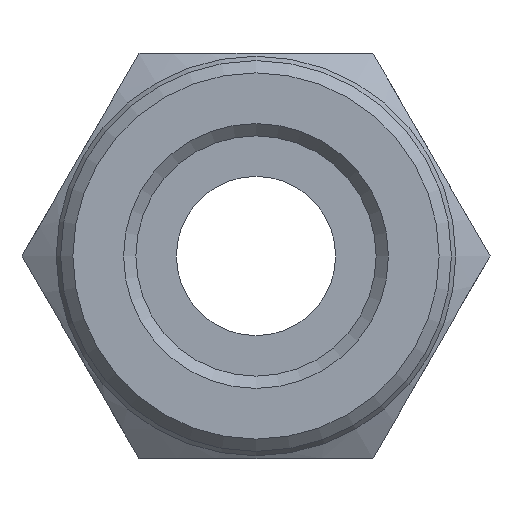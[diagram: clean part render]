
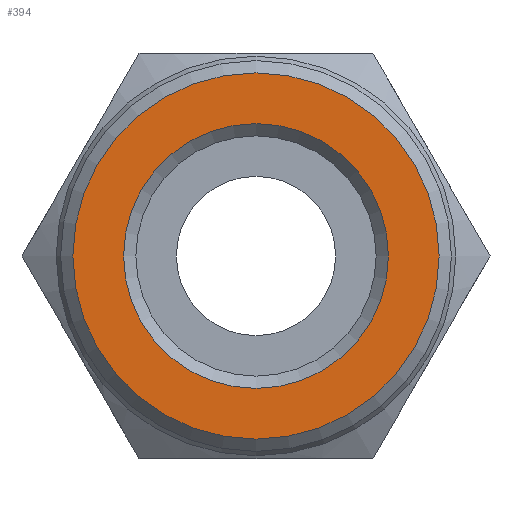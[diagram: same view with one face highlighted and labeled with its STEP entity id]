
A CAD part, left-side view. The second image highlights one B-rep face of the part: STEP entity #394.
In plain terms, the highlighted planar face has unit normal (-1, 0, 0).
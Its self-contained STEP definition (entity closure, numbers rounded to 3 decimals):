
#55=PLANE('',#442);
#70=ORIENTED_EDGE('',*,*,#158,.T.);
#71=ORIENTED_EDGE('',*,*,#156,.F.);
#156=EDGE_CURVE('',#200,#200,#238,.T.);
#158=EDGE_CURVE('',#202,#202,#240,.T.);
#200=VERTEX_POINT('',#627);
#202=VERTEX_POINT('',#632);
#238=CIRCLE('',#440,6.326);
#240=CIRCLE('',#443,4.574);
#266=EDGE_LOOP('',(#70));
#267=EDGE_LOOP('',(#71));
#326=FACE_BOUND('',#266,.T.);
#327=FACE_BOUND('',#267,.T.);
#394=ADVANCED_FACE('',(#326,#327),#55,.T.);
#440=AXIS2_PLACEMENT_3D('',#626,#502,#503);
#442=AXIS2_PLACEMENT_3D('',#630,#506,#507);
#443=AXIS2_PLACEMENT_3D('',#631,#508,#509);
#502=DIRECTION('',(1.,0.,0.));
#503=DIRECTION('',(0.,0.,-1.));
#506=DIRECTION('',(-1.,0.,0.));
#507=DIRECTION('',(0.,0.,1.));
#508=DIRECTION('',(1.,0.,0.));
#509=DIRECTION('',(0.,0.,-1.));
#626=CARTESIAN_POINT('',(0.,0.,0.));
#627=CARTESIAN_POINT('',(0.,0.,-6.326));
#630=CARTESIAN_POINT('',(0.,6.326,0.));
#631=CARTESIAN_POINT('',(0.,0.,0.));
#632=CARTESIAN_POINT('',(0.,0.,-4.574));
